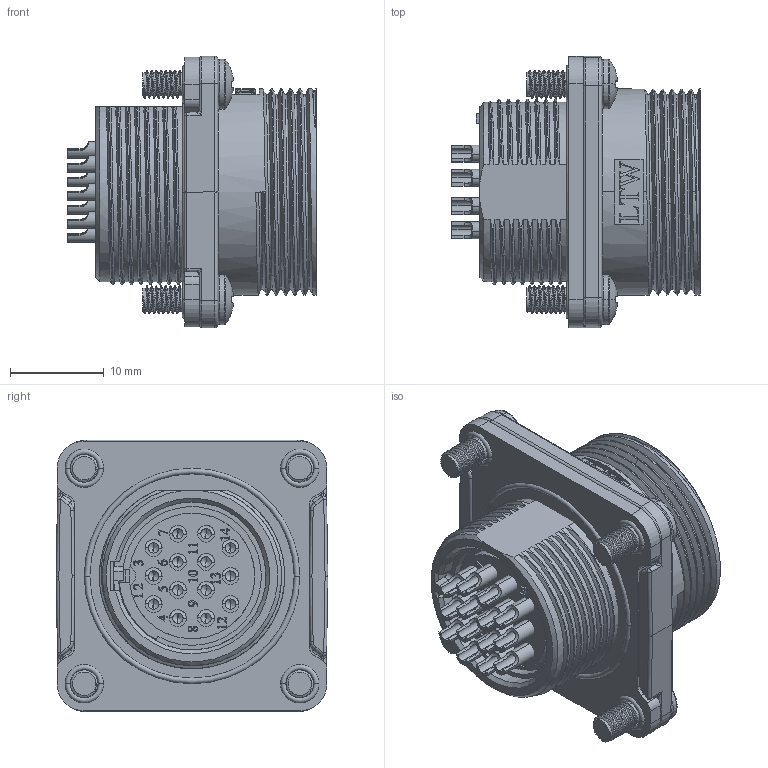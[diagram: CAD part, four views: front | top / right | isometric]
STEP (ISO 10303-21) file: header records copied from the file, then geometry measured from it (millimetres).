
FILE_DESCRIPTION((''),'2;1');
FILE_NAME('LD20-14PMFS-SW8001_ASM','2021-07-29T',('L100003'),(''),'PRO/ENGINEER BY PARAMETRIC TECHNOLOGY CORPORATION, 2017170','PRO/ENGINEER BY PARAMETRIC TECHNOLOGY CORPORATION, 2017170','');
FILE_SCHEMA(('CONFIG_CONTROL_DESIGN'));
Length unit declared in the file: millimetre
Products named in the file (29): MSBR-28; MSBR-27; MSBR-26; MSBR-25; MSBR-24; MSBR-23; MSBR-22; MSBR-21; MSBR-20; MSBR-19; MSBR-18; MSBR-17; MSBR-16; MSBR-15; MSBR-14; MSBR-13; MSBR-12; MSBR-11; MSBR-10; MSBR-9; MSBR-8; MSBR-7; MSBR-6; MSBR-5; MSBR-4; MSBR-3; MSBR-2; MSBR-1; LD20-14PMFS-SW8001_ASM
Assembly tree (28 placements, depth 2):
  LD20-14PMFS-SW8001_ASM
    MSBR-28
    MSBR-27
    MSBR-26
    MSBR-25
    MSBR-24
    MSBR-23
    MSBR-22
    MSBR-21
    MSBR-20
    MSBR-19
    MSBR-18
    MSBR-17
    MSBR-16
    MSBR-15
    MSBR-14
    MSBR-13
    MSBR-12
    MSBR-11
    MSBR-10
    MSBR-9
    MSBR-8
    MSBR-7
    MSBR-6
    MSBR-5
    MSBR-4
    MSBR-3
    MSBR-2
    MSBR-1
Bounding box: 26.5 x 29 x 29 mm (x, y, z)
Volume: 8918.6 mm3; surface area: 11454.4 mm2
Topology: 28 solids, 28 shells, 2472 faces, 6651 edges, 4299 vertices
Faces by surface type: plane 1106, cylinder 508, extrusion 329, cone 203, bspline 170, torus 138, sphere 18
Entity records: 115249 total; most frequent: CARTESIAN_POINT 38832, ORIENTED_EDGE 13190, DIRECTION 11042, EDGE_CURVE 6595, VERTEX_POINT 4299, VECTOR 4066, LINE 3737, AXIS2_PLACEMENT_3D 3488
